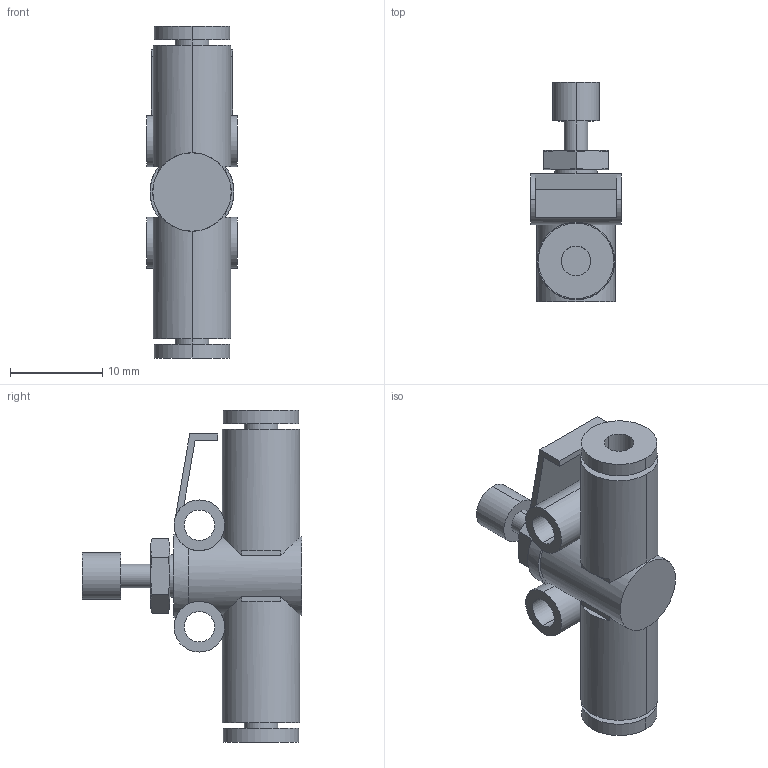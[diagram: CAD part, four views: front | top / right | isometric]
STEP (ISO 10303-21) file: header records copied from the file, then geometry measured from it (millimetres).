
FILE_DESCRIPTION( ( '' ), '1' );
FILE_NAME( 'G:/SMC狟婥/AS1002F-23.stp', '2023-03-07T03:57:36', ( '' ), ( '' ), ' ', ' ', ' ' );
FILE_SCHEMA( ( 'CONFIG_CONTROL_DESIGN' ) );
Length unit declared in the file: millimetre
Products named in the file (1): 1
Bounding box: 9.8 x 23.8 x 36 mm (x, y, z)
Volume: 2632.6 mm3; surface area: 2562.8 mm2
Topology: 1 solids, 1 shells, 79 faces, 196 edges, 128 vertices
Faces by surface type: plane 41, cylinder 34, cone 4
Entity records: 3238 total; most frequent: CARTESIAN_POINT 1306, DIRECTION 394, ORIENTED_EDGE 392, EDGE_CURVE 196, AXIS2_PLACEMENT_3D 154, VERTEX_POINT 128, EDGE_LOOP 96, LINE 86
